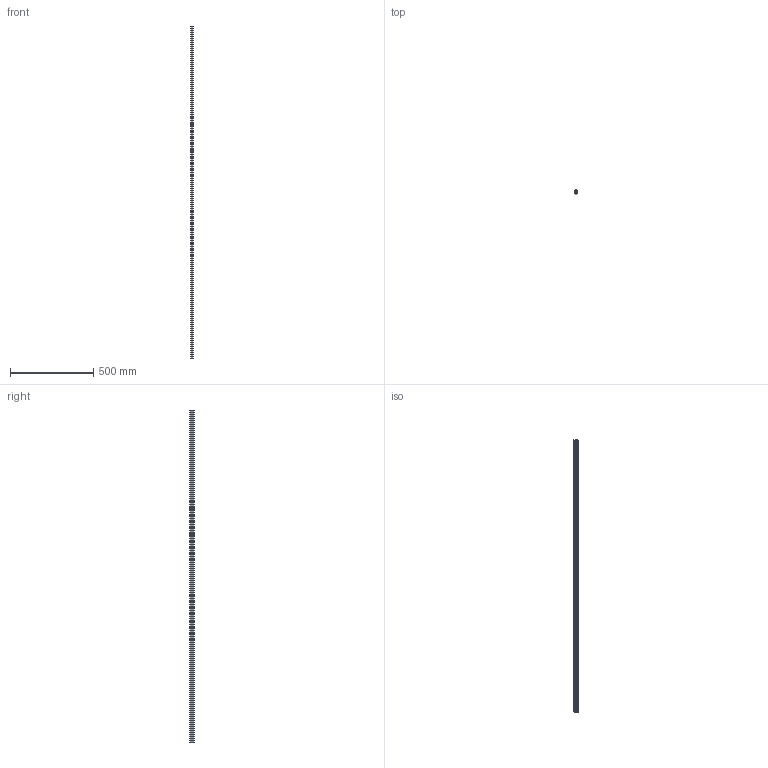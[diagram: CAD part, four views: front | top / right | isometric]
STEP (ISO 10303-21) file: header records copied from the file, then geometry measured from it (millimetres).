
FILE_DESCRIPTION(/* description */ ('Profilo scorrimento per Prof. cava 10 serie 45 L=2000 mm'),/* implementation_level */ '2;1');
FILE_NAME(/* name */ 'C:\Users\Stefan.Nesic\Desktop\01010STEP\SPG4500.stp',/* time_stamp */ '2022-06-17T15:21:50+02:00',/* author */ ('Daniele'),/* organization */ (''),/* preprocessor_version */ 'ST-DEVELOPER v18.1',/* originating_system */ 'Autodesk Inventor 2021',/* authorisation */ '');
FILE_SCHEMA (('AUTOMOTIVE_DESIGN { 1 0 10303 214 3 1 1 }'));
Length unit declared in the file: millimetre
Products named in the file (1): SPG4500
Bounding box: 18 x 27 x 2000 mm (x, y, z)
Volume: 711157.9 mm3; surface area: 226208.8 mm2
Topology: 1 solids, 1 shells, 26 faces, 72 edges, 48 vertices
Faces by surface type: plane 26
Entity records: 857 total; most frequent: CARTESIAN_POINT 147, ORIENTED_EDGE 144, DIRECTION 126, LINE 72, VECTOR 72, EDGE_CURVE 72, VERTEX_POINT 48, AXIS2_PLACEMENT_3D 27
